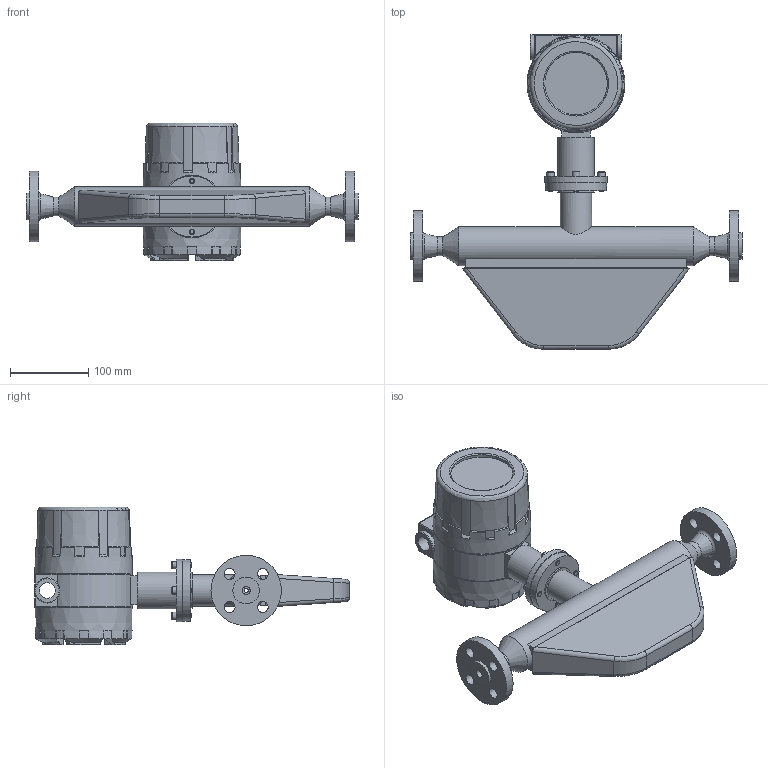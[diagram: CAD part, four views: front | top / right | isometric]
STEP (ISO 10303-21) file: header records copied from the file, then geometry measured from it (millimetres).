
FILE_DESCRIPTION(('STEP AP203'), '1');
FILE_NAME('Äó 10-4 ÌÏà-100 Ñ', '', ('UNSPECIFIED'), ('UNSPECIFIED'), 'ASCON STEP Converter 1.6', 'ASCON Math Kernel', '');
FILE_SCHEMA(('CONFIG_CONTROL_DESIGN'));
Length unit declared in the file: millimetre
Products named in the file (1): ﾝﾌ260 Ex-010-ﾈ-ﾆ-1,6-100-24-ﾀ-0,5-ﾃﾏ-ﾌ15-ﾃﾎﾑﾒ
Bounding box: 424 x 401.62 x 176 mm (x, y, z)
Volume: 3845560.7 mm3; surface area: 285906.9 mm2
Topology: 1 solids, 1 shells, 377 faces, 942 edges, 583 vertices
Faces by surface type: plane 195, cylinder 100, cone 54, torus 14, bspline 10, sphere 4
Full cylindrical faces by diameter (mm): 5 x2, 6.35 x4, 7 x4, 9.525 x4, 10 x3, 14 x8, 20 x1, 24 x2, 32 x2, 34 x2, 40 x1, 46 x1, 47 x1, 50 x1, 78 x1, 80 x2, 90 x2
Entity records: 19163 total; most frequent: CARTESIAN_POINT 7524, DIRECTION 1765, ORIENTED_EDGE 1722, EDGE_CURVE 861, AXIS2_PLACEMENT_3D 692, VERTEX_POINT 579, EDGE_LOOP 490, FACE_BOUND 398
